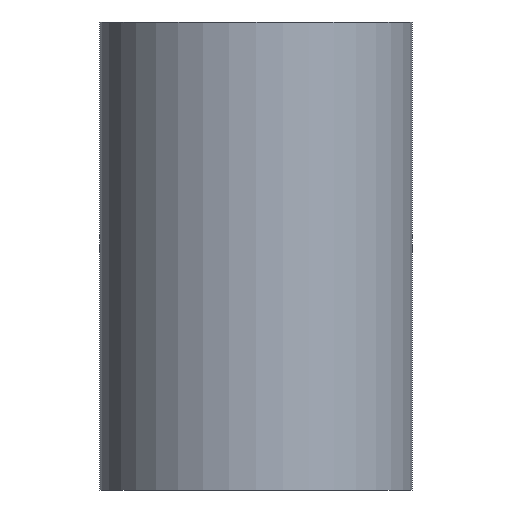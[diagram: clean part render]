
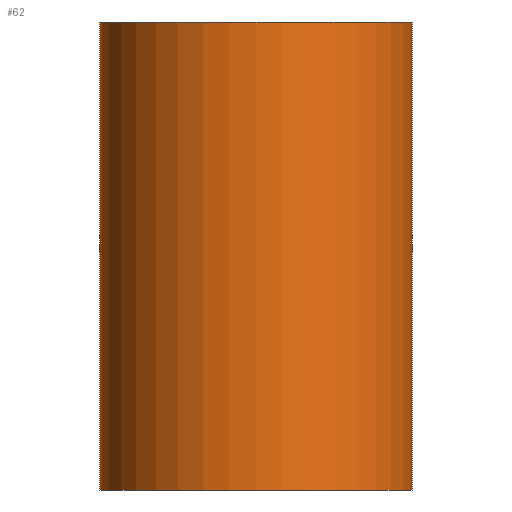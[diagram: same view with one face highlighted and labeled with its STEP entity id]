
A CAD part, front view. The second image highlights one B-rep face of the part: STEP entity #62.
In plain terms, the highlighted cylindrical face has radius 6 mm (diameter 12 mm), a full revolution.
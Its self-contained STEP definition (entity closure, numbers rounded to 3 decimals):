
#20=FACE_OUTER_BOUND('',#24,.T.);
#24=EDGE_LOOP('',(#51,#52,#53,#54));
#30=LINE('',#127,#32);
#32=VECTOR('',#109,6.);
#35=CIRCLE('',#92,6.);
#36=CIRCLE('',#93,6.);
#39=VERTEX_POINT('',#124);
#40=VERTEX_POINT('',#126);
#44=EDGE_CURVE('',#39,#39,#35,.T.);
#45=EDGE_CURVE('',#39,#40,#30,.T.);
#46=EDGE_CURVE('',#40,#40,#36,.T.);
#51=ORIENTED_EDGE('',*,*,#44,.F.);
#52=ORIENTED_EDGE('',*,*,#45,.T.);
#53=ORIENTED_EDGE('',*,*,#46,.F.);
#54=ORIENTED_EDGE('',*,*,#45,.F.);
#60=CYLINDRICAL_SURFACE('',#91,6.);
#62=ADVANCED_FACE('',(#20),#60,.T.);
#91=AXIS2_PLACEMENT_3D('',#123,#105,#106);
#92=AXIS2_PLACEMENT_3D('',#125,#107,#108);
#93=AXIS2_PLACEMENT_3D('',#128,#110,#111);
#105=DIRECTION('center_axis',(0.,0.,1.));
#106=DIRECTION('ref_axis',(-1.,0.,0.));
#107=DIRECTION('center_axis',(0.,0.,
1.));
#108=DIRECTION('ref_axis',(-1.,0.,0.));
#109=DIRECTION('',(0.,0.,-1.));
#110=DIRECTION('center_axis',(0.,0.,-1.));
#111=DIRECTION('ref_axis',(-1.,0.,0.));
#123=CARTESIAN_POINT('Origin',(0.,0.,0.));
#124=CARTESIAN_POINT('',(6.,0.,18.));
#125=CARTESIAN_POINT('Origin',(0.,0.,18.));
#126=CARTESIAN_POINT('',(6.,0.,0.));
#127=CARTESIAN_POINT('',(6.,0.,0.));
#128=CARTESIAN_POINT('Origin',(0.,0.,0.));
